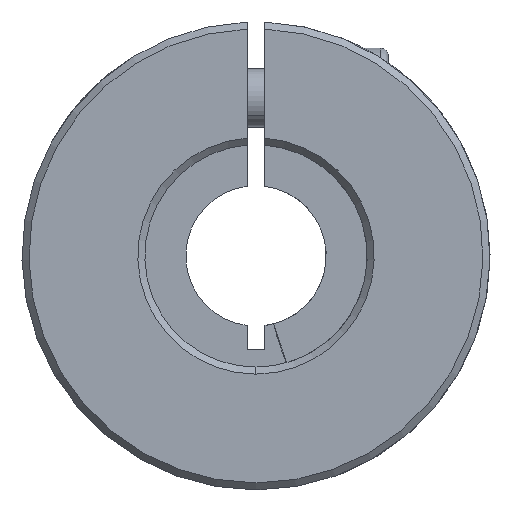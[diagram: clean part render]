
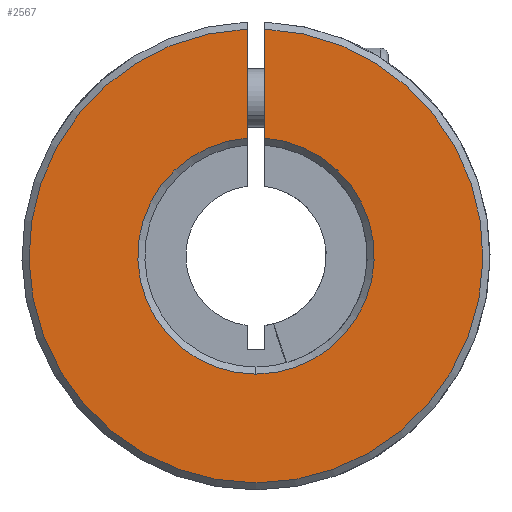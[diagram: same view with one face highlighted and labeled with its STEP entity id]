
A CAD part, front view. The second image highlights one B-rep face of the part: STEP entity #2567.
In plain terms, the highlighted planar face has unit normal (0, -1, 0).
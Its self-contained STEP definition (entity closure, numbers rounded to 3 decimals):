
#22 = CARTESIAN_POINT ( 'NONE',  ( -0.75, -25., 10.072 ) ) ;
#181 = DIRECTION ( 'NONE',  ( 0., 1., 0. ) ) ;
#244 = EDGE_CURVE ( 'NONE', #647, #4721, #4100, .T. ) ;
#339 = CARTESIAN_POINT ( 'NONE',  ( 0.75, -25., -8. ) ) ;
#647 = VERTEX_POINT ( 'NONE', #3122 ) ;
#715 = EDGE_CURVE ( 'NONE', #1376, #3181, #4168, .T. ) ;
#773 = ORIENTED_EDGE ( 'NONE', *, *, #715, .T. ) ;
#798 = DIRECTION ( 'NONE',  ( 0., 1., 0. ) ) ;
#900 = AXIS2_PLACEMENT_3D ( 'NONE', #3100, #5883, #3165 ) ;
#957 = EDGE_LOOP ( 'NONE', ( #2292, #4067, #1298, #2290, #773 ) ) ;
#1250 = FACE_OUTER_BOUND ( 'NONE', #957, .T. ) ;
#1298 = ORIENTED_EDGE ( 'NONE', *, *, #244, .T. ) ;
#1376 = VERTEX_POINT ( 'NONE', #4831 ) ;
#1512 = CARTESIAN_POINT ( 'NONE',  ( 0., -25., 0. ) ) ;
#1541 = AXIS2_PLACEMENT_3D ( 'NONE', #2129, #2191, #3996 ) ;
#1585 = CARTESIAN_POINT ( 'NONE',  ( 0.75, -25., 19.385 ) ) ;
#1617 = LINE ( 'NONE', #339, #4776 ) ;
#1915 = DIRECTION ( 'NONE',  ( 0., 0., 1. ) ) ;
#1936 = AXIS2_PLACEMENT_3D ( 'NONE', #1512, #181, #2007 ) ;
#2007 = DIRECTION ( 'NONE',  ( 0., 0., 1. ) ) ;
#2038 = CIRCLE ( 'NONE', #1936, 10.1 ) ;
#2129 = CARTESIAN_POINT ( 'NONE',  ( 0., -25., 0. ) ) ;
#2191 = DIRECTION ( 'NONE',  ( 0., -1., 0. ) ) ;
#2290 = ORIENTED_EDGE ( 'NONE', *, *, #4463, .T. ) ;
#2292 = ORIENTED_EDGE ( 'NONE', *, *, #4535, .T. ) ;
#2380 = LINE ( 'NONE', #3843, #5444 ) ;
#2567 = ADVANCED_FACE ( 'NONE', ( #1250 ), #5831, .F. ) ;
#2652 = DIRECTION ( 'NONE',  ( 0., 0., 1. ) ) ;
#2828 = AXIS2_PLACEMENT_3D ( 'NONE', #3531, #798, #2652 ) ;
#2863 = EDGE_CURVE ( 'NONE', #5862, #647, #2038, .T. ) ;
#3100 = CARTESIAN_POINT ( 'NONE',  ( 0., -25., 0. ) ) ;
#3122 = CARTESIAN_POINT ( 'NONE',  ( 0., -25., -10.1 ) ) ;
#3165 = DIRECTION ( 'NONE',  ( 0., 0., 1. ) ) ;
#3181 = VERTEX_POINT ( 'NONE', #1585 ) ;
#3531 = CARTESIAN_POINT ( 'NONE',  ( 0., -25., 0. ) ) ;
#3843 = CARTESIAN_POINT ( 'NONE',  ( -0.75, -25., -8. ) ) ;
#3996 = DIRECTION ( 'NONE',  ( 0., 0., 1. ) ) ;
#4067 = ORIENTED_EDGE ( 'NONE', *, *, #2863, .T. ) ;
#4100 = CIRCLE ( 'NONE', #900, 10.1 ) ;
#4168 = CIRCLE ( 'NONE', #1541, 19.4 ) ;
#4463 = EDGE_CURVE ( 'NONE', #4721, #1376, #2380, .T. ) ;
#4535 = EDGE_CURVE ( 'NONE', #3181, #5862, #1617, .T. ) ;
#4707 = CARTESIAN_POINT ( 'NONE',  ( 0.75, -25., 10.072 ) ) ;
#4721 = VERTEX_POINT ( 'NONE', #22 ) ;
#4776 = VECTOR ( 'NONE', #5905, 1000. ) ;
#4831 = CARTESIAN_POINT ( 'NONE',  ( -0.75, -25., 19.385 ) ) ;
#5444 = VECTOR ( 'NONE', #1915, 1000. ) ;
#5831 = PLANE ( 'NONE',  #2828 ) ;
#5862 = VERTEX_POINT ( 'NONE', #4707 ) ;
#5883 = DIRECTION ( 'NONE',  ( 0., 1., 0. ) ) ;
#5905 = DIRECTION ( 'NONE',  ( 0., 0., -1. ) ) ;
